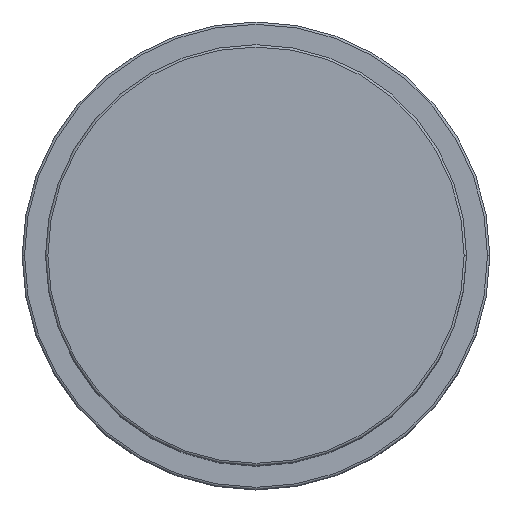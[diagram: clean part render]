
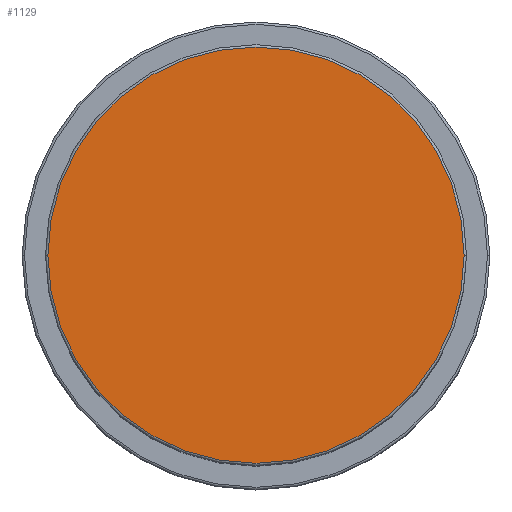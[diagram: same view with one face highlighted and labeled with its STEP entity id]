
A CAD part, top view. The second image highlights one B-rep face of the part: STEP entity #1129.
In plain terms, the highlighted planar face has unit normal (0, 0, 1).
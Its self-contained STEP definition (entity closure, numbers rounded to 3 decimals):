
#3 = DIRECTION ( 'NONE',  ( 0., 0., 1. ) ) ;
#168 = FACE_OUTER_BOUND ( 'NONE', #1611, .T. ) ;
#213 = CARTESIAN_POINT ( 'NONE',  ( 44.5, 0., 102. ) ) ;
#231 = ORIENTED_EDGE ( 'NONE', *, *, #780, .T. ) ;
#244 = CARTESIAN_POINT ( 'NONE',  ( 0., 0., 102. ) ) ;
#264 = DIRECTION ( 'NONE',  ( 1., 0., 0. ) ) ;
#282 = EDGE_CURVE ( 'NONE', #443, #623, #924, .T. ) ;
#325 = PLANE ( 'NONE',  #483 ) ;
#377 = CARTESIAN_POINT ( 'NONE',  ( 0., 0., 102. ) ) ;
#443 = VERTEX_POINT ( 'NONE', #1047 ) ;
#471 = ORIENTED_EDGE ( 'NONE', *, *, #282, .T. ) ;
#483 = AXIS2_PLACEMENT_3D ( 'NONE', #857, #592, #987 ) ;
#592 = DIRECTION ( 'NONE',  ( 0., 0., 1. ) ) ;
#623 = VERTEX_POINT ( 'NONE', #213 ) ;
#777 = AXIS2_PLACEMENT_3D ( 'NONE', #244, #1144, #935 ) ;
#780 = EDGE_CURVE ( 'NONE', #623, #443, #812, .T. ) ;
#812 = CIRCLE ( 'NONE', #777, 44.5 ) ;
#857 = CARTESIAN_POINT ( 'NONE',  ( 0., 0., 102. ) ) ;
#924 = CIRCLE ( 'NONE', #1583, 44.5 ) ;
#935 = DIRECTION ( 'NONE',  ( 1., 0., 0. ) ) ;
#987 = DIRECTION ( 'NONE',  ( 1., 0., 0. ) ) ;
#1047 = CARTESIAN_POINT ( 'NONE',  ( -44.5, 0., 102. ) ) ;
#1129 = ADVANCED_FACE ( 'NONE', ( #168 ), #325, .T. ) ;
#1144 = DIRECTION ( 'NONE',  ( 0., 0., 1. ) ) ;
#1583 = AXIS2_PLACEMENT_3D ( 'NONE', #377, #3, #264 ) ;
#1611 = EDGE_LOOP ( 'NONE', ( #231, #471 ) ) ;
